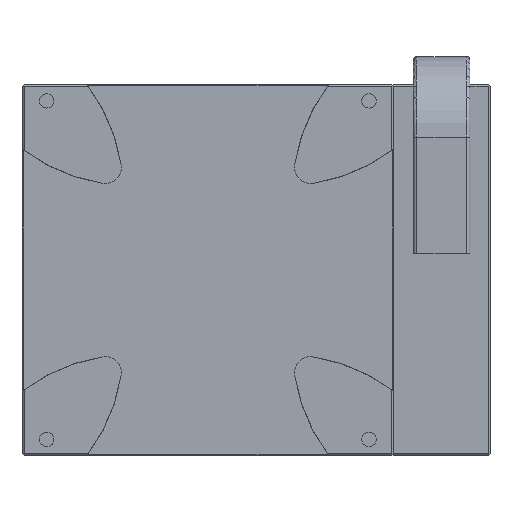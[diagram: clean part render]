
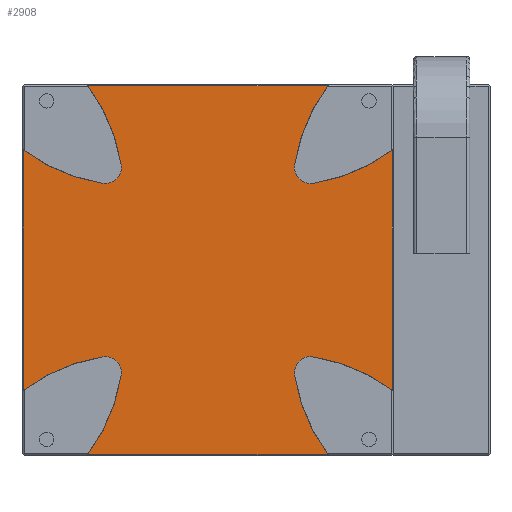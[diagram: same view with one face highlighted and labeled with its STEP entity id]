
A CAD part, front view. The second image highlights one B-rep face of the part: STEP entity #2908.
In plain terms, the highlighted planar face has unit normal (0, -1, 0).
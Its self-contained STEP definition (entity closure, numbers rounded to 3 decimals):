
#138=DIRECTION('',(1.,0.,0.));
#139=VECTOR('',#138,149.242);
#140=CARTESIAN_POINT('',(-74.621,-18.5,-114.5));
#141=LINE('',#140,#139);
#160=CARTESIAN_POINT('',(-48.31,-18.5,162.478));
#161=DIRECTION('',(0.,1.,0.));
#162=DIRECTION('',(-0.154,0.,-0.988));
#163=AXIS2_PLACEMENT_3D('',#160,#161,#162);
#165=CARTESIAN_POINT('',(-63.664,-18.5,63.664));
#166=DIRECTION('',(0.,1.,0.));
#167=DIRECTION('',(0.988,0.,0.154));
#168=AXIS2_PLACEMENT_3D('',#165,#166,#167);
#170=CARTESIAN_POINT('',(-162.478,-18.5,48.31));
#171=DIRECTION('',(0.,1.,0.));
#172=DIRECTION('',(0.799,0.,0.602));
#173=AXIS2_PLACEMENT_3D('',#170,#171,#172);
#175=CARTESIAN_POINT('',(162.478,-18.5,48.31));
#176=DIRECTION('',(0.,1.,0.));
#177=DIRECTION('',(-0.988,0.,0.154));
#178=AXIS2_PLACEMENT_3D('',#175,#176,#177);
#180=CARTESIAN_POINT('',(63.664,-18.5,63.664));
#181=DIRECTION('',(0.,1.,0.));
#182=DIRECTION('',(0.154,0.,-0.988));
#183=AXIS2_PLACEMENT_3D('',#180,#181,#182);
#185=CARTESIAN_POINT('',(48.31,-18.5,162.478));
#186=DIRECTION('',(0.,1.,0.));
#187=DIRECTION('',(0.602,0.,-0.799));
#188=AXIS2_PLACEMENT_3D('',#185,#186,#187);
#190=CARTESIAN_POINT('',(48.31,-18.5,-162.478));
#191=DIRECTION('',(0.,1.,0.));
#192=DIRECTION('',(0.154,0.,0.988));
#193=AXIS2_PLACEMENT_3D('',#190,#191,#192);
#195=CARTESIAN_POINT('',(63.664,-18.5,-63.664));
#196=DIRECTION('',(0.,1.,0.));
#197=DIRECTION('',(-0.988,0.,-0.154));
#198=AXIS2_PLACEMENT_3D('',#195,#196,#197);
#200=CARTESIAN_POINT('',(162.478,-18.5,-48.31));
#201=DIRECTION('',(0.,1.,0.));
#202=DIRECTION('',(-0.799,0.,-0.602));
#203=AXIS2_PLACEMENT_3D('',#200,#201,#202);
#205=CARTESIAN_POINT('',(-162.478,-18.5,-48.31));
#206=DIRECTION('',(0.,1.,0.));
#207=DIRECTION('',(0.988,0.,-0.154));
#208=AXIS2_PLACEMENT_3D('',#205,#206,#207);
#210=CARTESIAN_POINT('',(-63.664,-18.5,-63.664));
#211=DIRECTION('',(0.,1.,0.));
#212=DIRECTION('',(-0.154,0.,0.988));
#213=AXIS2_PLACEMENT_3D('',#210,#211,#212);
#215=CARTESIAN_POINT('',(-48.31,-18.5,-162.478));
#216=DIRECTION('',(0.,1.,0.));
#217=DIRECTION('',(-0.602,0.,0.799));
#218=AXIS2_PLACEMENT_3D('',#215,#216,#217);
#220=DIRECTION('',(0.,0.,-1.));
#221=VECTOR('',#220,149.242);
#222=CARTESIAN_POINT('',(-114.5,-18.5,74.621));
#223=LINE('',#222,#221);
#1826=DIRECTION('',(0.,0.,1.));
#1827=VECTOR('',#1826,149.242);
#1828=CARTESIAN_POINT('',(114.5,-18.5,-74.621));
#1829=LINE('',#1828,#1827);
#1856=DIRECTION('',(-1.,0.,0.));
#1857=VECTOR('',#1856,149.242);
#1858=CARTESIAN_POINT('',(74.621,-18.5,114.5));
#1859=LINE('',#1858,#1857);
#2098=CARTESIAN_POINT('',(53.783,-18.5,-65.199));
#2099=CARTESIAN_POINT('',(65.199,-18.5,-53.783));
#2100=VERTEX_POINT('',#2098);
#2101=VERTEX_POINT('',#2099);
#2102=CARTESIAN_POINT('',(-65.199,-18.5,-53.783));
#2103=CARTESIAN_POINT('',(-53.783,-18.5,-65.199));
#2104=VERTEX_POINT('',#2102);
#2105=VERTEX_POINT('',#2103);
#2106=CARTESIAN_POINT('',(65.199,-18.5,53.783));
#2107=CARTESIAN_POINT('',(53.783,-18.5,65.199));
#2108=VERTEX_POINT('',#2106);
#2109=VERTEX_POINT('',#2107);
#2110=CARTESIAN_POINT('',(-53.783,-18.5,65.199));
#2111=CARTESIAN_POINT('',(-65.199,-18.5,53.783));
#2112=VERTEX_POINT('',#2110);
#2113=VERTEX_POINT('',#2111);
#2146=CARTESIAN_POINT('',(-114.5,-18.5,74.621));
#2147=CARTESIAN_POINT('',(-114.5,-18.5,-74.621));
#2148=VERTEX_POINT('',#2146);
#2149=VERTEX_POINT('',#2147);
#2150=CARTESIAN_POINT('',(74.621,-18.5,114.5));
#2151=CARTESIAN_POINT('',(-74.621,-18.5,114.5));
#2152=VERTEX_POINT('',#2150);
#2153=VERTEX_POINT('',#2151);
#2154=CARTESIAN_POINT('',(114.5,-18.5,-74.621));
#2155=CARTESIAN_POINT('',(114.5,-18.5,74.621));
#2156=VERTEX_POINT('',#2154);
#2157=VERTEX_POINT('',#2155);
#2158=CARTESIAN_POINT('',(-74.621,-18.5,-114.5));
#2159=CARTESIAN_POINT('',(74.621,-18.5,-114.5));
#2160=VERTEX_POINT('',#2158);
#2161=VERTEX_POINT('',#2159);
#2872=CARTESIAN_POINT('',(0.,-18.5,0.));
#2873=DIRECTION('',(0.,-1.,0.));
#2874=DIRECTION('',(-1.,0.,0.));
#2875=AXIS2_PLACEMENT_3D('',#2872,#2873,#2874);
#2876=PLANE('',#2875);
#2878=ORIENTED_EDGE('',*,*,#2877,.F.);
#2880=ORIENTED_EDGE('',*,*,#2879,.F.);
#2882=ORIENTED_EDGE('',*,*,#2881,.F.);
#2884=ORIENTED_EDGE('',*,*,#2883,.F.);
#2886=ORIENTED_EDGE('',*,*,#2885,.F.);
#2888=ORIENTED_EDGE('',*,*,#2887,.F.);
#2890=ORIENTED_EDGE('',*,*,#2889,.F.);
#2892=ORIENTED_EDGE('',*,*,#2891,.F.);
#2894=ORIENTED_EDGE('',*,*,#2893,.F.);
#2896=ORIENTED_EDGE('',*,*,#2895,.F.);
#2897=ORIENTED_EDGE('',*,*,#2826,.F.);
#2898=ORIENTED_EDGE('',*,*,#2841,.F.);
#2899=ORIENTED_EDGE('',*,*,#2852,.F.);
#2901=ORIENTED_EDGE('',*,*,#2900,.F.);
#2903=ORIENTED_EDGE('',*,*,#2902,.F.);
#2905=ORIENTED_EDGE('',*,*,#2904,.F.);
#2906=EDGE_LOOP('',(#2878,#2880,#2882,#2884,#2886,#2888,#2890,#2892,#2894,#2896,
#2897,#2898,#2899,#2901,#2903,#2905));
#2907=FACE_OUTER_BOUND('',#2906,.F.);
#2908=ADVANCED_FACE('',(#2907),#2876,.T.);
#164=CIRCLE('',#163,110.);
#169=CIRCLE('',#168,10.);
#174=CIRCLE('',#173,110.);
#179=CIRCLE('',#178,110.);
#184=CIRCLE('',#183,10.);
#189=CIRCLE('',#188,110.);
#194=CIRCLE('',#193,110.);
#199=CIRCLE('',#198,10.);
#204=CIRCLE('',#203,110.);
#209=CIRCLE('',#208,110.);
#214=CIRCLE('',#213,10.);
#219=CIRCLE('',#218,110.);
#2826=EDGE_CURVE('',#2100,#2101,#199,.T.);
#2841=EDGE_CURVE('',#2161,#2100,#204,.T.);
#2852=EDGE_CURVE('',#2160,#2161,#141,.T.);
#2877=EDGE_CURVE('',#2148,#2149,#223,.T.);
#2879=EDGE_CURVE('',#2113,#2148,#164,.T.);
#2881=EDGE_CURVE('',#2112,#2113,#169,.T.);
#2883=EDGE_CURVE('',#2153,#2112,#174,.T.);
#2885=EDGE_CURVE('',#2152,#2153,#1859,.T.);
#2887=EDGE_CURVE('',#2109,#2152,#179,.T.);
#2889=EDGE_CURVE('',#2108,#2109,#184,.T.);
#2891=EDGE_CURVE('',#2157,#2108,#189,.T.);
#2893=EDGE_CURVE('',#2156,#2157,#1829,.T.);
#2895=EDGE_CURVE('',#2101,#2156,#194,.T.);
#2900=EDGE_CURVE('',#2105,#2160,#209,.T.);
#2902=EDGE_CURVE('',#2104,#2105,#214,.T.);
#2904=EDGE_CURVE('',#2149,#2104,#219,.T.);
